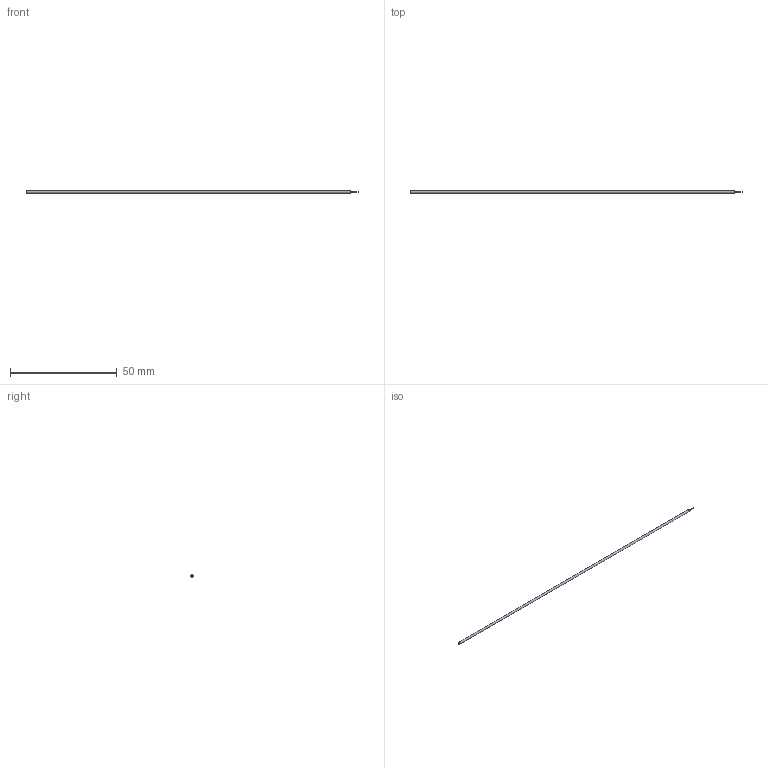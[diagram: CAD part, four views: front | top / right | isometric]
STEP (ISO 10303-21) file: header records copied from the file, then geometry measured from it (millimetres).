
FILE_DESCRIPTION(/* description */ ('STEP AP242 Edition 2','CAx-IF Rec.Pracs.---Representation and Presentation of Product Manufacturing Information (PMI)---4.0---2014-10-13','CAx-IF Rec.Pracs.---3D Tessellated Geometry---0.4---2014-09-14','2;1','CAx-IF Rec.Pracs.---User Defined Attributes---1.5---2016-08-15'),/* implementation_level */ '2;1');
FILE_NAME(/* name */ 'Part Studio 1 - Surface 36',/* time_stamp */ '2026-11-25T23:28:52Z',/* author */ (''),/* organization */ (''),/* preprocessor_version */ 'ST-DEVELOPER v20',/* originating_system */ 'ONSHAPE BY PTC INC, 1.224',/* authorisation */ ' ');
FILE_SCHEMA (('AP242_MANAGED_MODEL_BASED_3D_ENGINEERING_MIM_LF { 1 0 10303 442 3 1 4 }'));
Length unit declared in the file: metre
Products named in the file (1): NONE
Bounding box: 155.46 x 1.02 x 1.02 mm (x, y, z)
Surface area: 489.8 mm2 (no closed solid volume)
Topology: 0 solids, 1 shells, 4 faces, 6 edges, 4 vertices
Faces by surface type: cylinder 2, plane 2
Full cylindrical faces by diameter (mm): 0.35 x1, 1.016 x1
Entity records: 98 total; most frequent: DIRECTION 18, CARTESIAN_POINT 13, AXIS2_PLACEMENT_3D 9, ORIENTED_EDGE 7, EDGE_LOOP 7, FACE_BOUND 7, EDGE_CURVE 4, VERTEX_POINT 4
